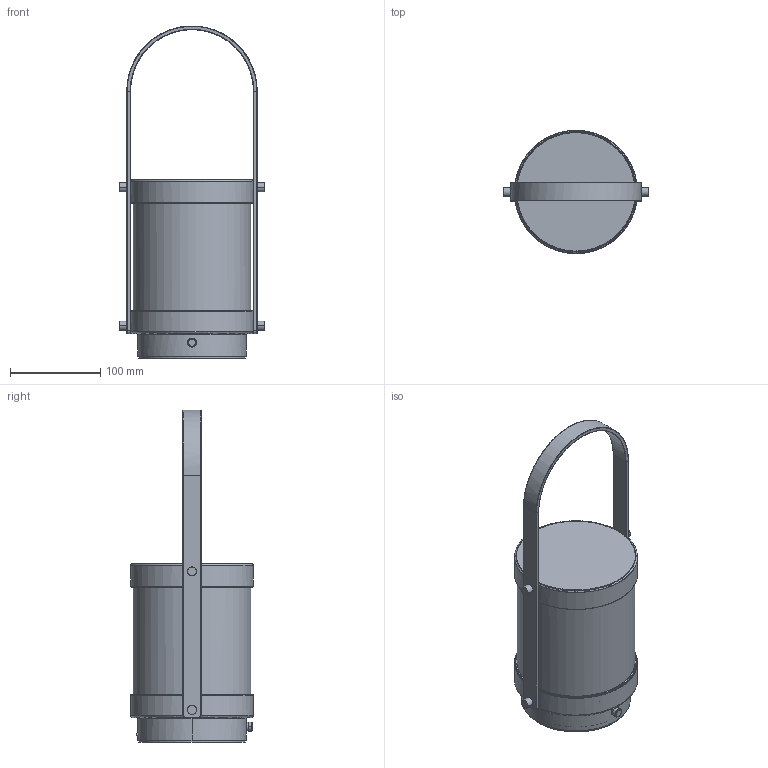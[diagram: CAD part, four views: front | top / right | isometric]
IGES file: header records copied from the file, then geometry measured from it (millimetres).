
Start section: SolidWorks IGES file using analytic representation for surfaces
Global section: file name: W:\Aromas\SUVI\SUVI.IGS; native system: SolidWorks 2021; preprocessor: SolidWorks 2021; author: PAMAGON; date: 220706.101646; units: millimetre
Bounding box: 160 x 136 x 366.99 mm (x, y, z)
Surface area: 499795.1 mm2 (no closed solid volume)
Topology: 0 solids, 0 shells, 974 faces, 10049 edges, 10049 vertices
Faces by surface type: bspline 974
